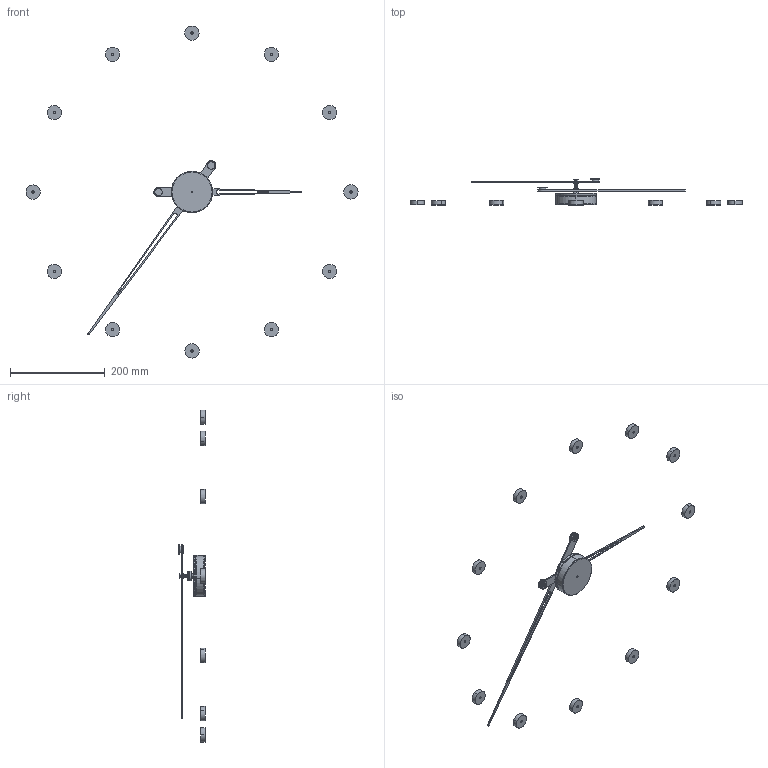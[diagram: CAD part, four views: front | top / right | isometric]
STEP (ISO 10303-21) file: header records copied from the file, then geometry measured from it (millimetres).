
FILE_DESCRIPTION (( 'STEP AP214' ), '1' );
FILE_NAME ('Rodón_g.STEP', '2016-09-15T08:25:18', ( '' ), ( '' ), 'SwSTEP 2.0', 'SolidWorks 2013', '' );
FILE_SCHEMA (( 'AUTOMOTIVE_DESIGN' ));
Length unit declared in the file: millimetre
Products named in the file (20): Tuerca 1.5; Pieza2; Cierre_contrapeso; Pieza_caja_inferior; Aguja_horaria_calada_nogal_74; aguja_horaria_calada_nogal_74; Esparrago; Rodón_g; Embellecedor; Mecanismo; aguja_minutera_calada_nogal_74; Caja_acero_inox; Pieza_caja_superior; Inserto horaria; Axioma_g_74; Aguja_minutera_calada_nogal_74; Señal_horaria_rodón; Arandela_2; Contrapeso_pequeño; tuerca_7.3_1.5
Assembly tree (33 placements, depth 4):
  Rodón_g
    Axioma_g_74
      Caja_acero_inox
        Pieza_caja_inferior
        Pieza_caja_superior
        Mecanismo
        Pieza2
      Aguja_horaria_calada_nogal_74
        aguja_horaria_calada_nogal_74
        Inserto horaria
        tuerca_7.3_1.5
        Arandela_2
        Contrapeso_pequeño
        Cierre_contrapeso
      Aguja_minutera_calada_nogal_74
        aguja_minutera_calada_nogal_74
        Contrapeso_pequeño
        Cierre_contrapeso
        Arandela_2
        Embellecedor
        Esparrago
        Tuerca 1.5
    Señal_horaria_rodón  x12
Bounding box: 700.18 x 55.1 x 700.18 mm (x, y, z)
Volume: 158147.4 mm3; surface area: 110172.9 mm2
Topology: 29 solids, 29 shells, 303 faces, 602 edges, 386 vertices
Faces by surface type: cylinder 154, plane 111, torus 26, cone 12
Entity records: 6452 total; most frequent: DIRECTION 1162, CARTESIAN_POINT 941, ORIENTED_EDGE 856, AXIS2_PLACEMENT_3D 491, EDGE_CURVE 428, VERTEX_POINT 270, CIRCLE 248, EDGE_LOOP 244
